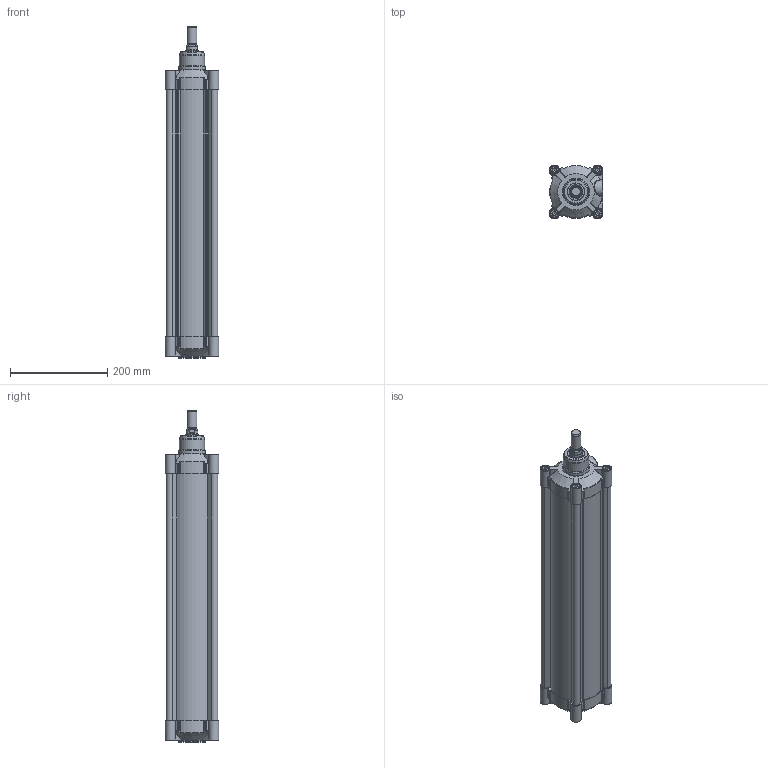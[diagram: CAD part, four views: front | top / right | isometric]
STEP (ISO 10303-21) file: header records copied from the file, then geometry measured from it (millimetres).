
FILE_DESCRIPTION(/* description */ (''),/* implementation_level */ '2;1');
FILE_NAME(/* name */ 'T:\Archivio Inventor\- 00 NUOVI STP PER SITO CON STELO CHE SI MUOVE\SERIE H - U\SERIE HDM\HDM100 - TUBO NUOVO\HDM100.450.GS.M.stp',/* time_stamp */ '2018-08-02T09:33:33+02:00',/* author */ ('carlo.corazza'),/* organization */ (''),/* preprocessor_version */ 'ST-DEVELOPER v16.5',/* originating_system */ 'Autodesk Inventor 2017',/* authorisation */ '');
FILE_SCHEMA (('AUTOMOTIVE_DESIGN { 1 0 10303 214 3 1 1 }'));
Length unit declared in the file: millimetre
Products named in the file (5): HDM100.450.GS.M; TP; TA; STELO-450; CORPO-450
Assembly tree (4 placements, depth 2):
  HDM100.450.GS.M
    TP
    TA
    STELO-450
    CORPO-450
Bounding box: 110 x 110 x 683 mm (x, y, z)
Volume: 1704076.1 mm3; surface area: 762929.7 mm2
Topology: 4 solids, 29 shells, 1355 faces, 3135 edges, 1912 vertices
Faces by surface type: plane 408, cylinder 313, bspline 270, torus 126, cone 122, sphere 116
Full cylindrical faces by diameter (mm): 5 x2, 5.9 x2, 6.5 x2, 7.25 x2, 8.376 x8, 9.4 x4, 10 x8, 10.3 x8, 11.8 x4, 11.9 x2, 12 x4, 16 x9, 16.3 x8, 17 x2, 17.5 x1, 18.631 x2, 20 x1, 24.5 x1, 25 x1, 25.8 x1, 25.962 x1, 30 x1, 31.5 x2, 35 x3, 52 x1, 55 x2, 100 x1
Entity records: 43668 total; most frequent: CARTESIAN_POINT 13702, ORIENTED_EDGE 5710, DIRECTION 5644, EDGE_CURVE 2855, AXIS2_PLACEMENT_3D 2293, VERTEX_POINT 1857, EDGE_LOOP 1690, STYLED_ITEM 1359
